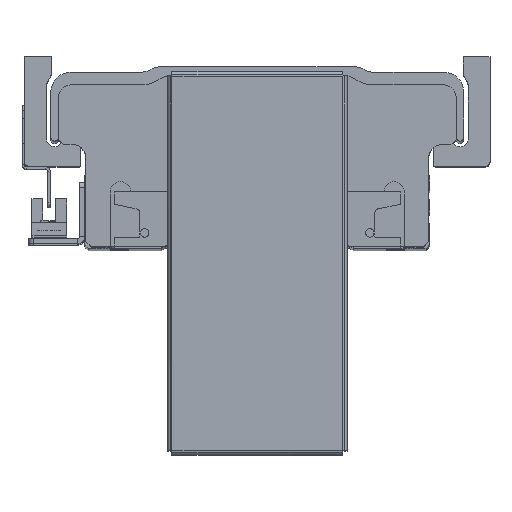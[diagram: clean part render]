
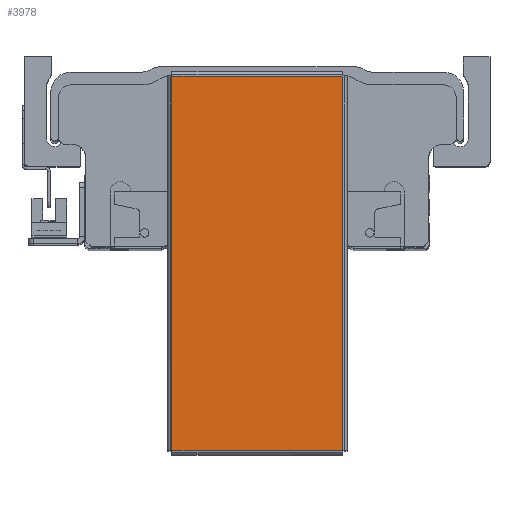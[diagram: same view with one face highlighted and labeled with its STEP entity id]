
A CAD part, top view. The second image highlights one B-rep face of the part: STEP entity #3978.
In plain terms, the highlighted planar face has unit normal (0, 0, 1) as drawn and (0, -1, 0) by its records, which use the part's own axes.
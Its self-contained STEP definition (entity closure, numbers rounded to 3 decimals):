
#1682 = EDGE_CURVE ( 'NONE', #23560, #23507, #3281, .T. ) ;
#1733 = EDGE_CURVE ( 'NONE', #23307, #23588, #3337, .T. ) ;
#1747 = EDGE_CURVE ( 'NONE', #23588, #23560, #3405, .T. ) ;
#1803 = EDGE_CURVE ( 'NONE', #23507, #23307, #3453, .T. ) ;
#3253 = VECTOR ( 'NONE', #5135, 1000. ) ;
#3281 = LINE ( 'NONE', #5115, #3253 ) ;
#3330 = VECTOR ( 'NONE', #5244, 1000. ) ;
#3337 = LINE ( 'NONE', #5227, #3330 ) ;
#3377 = VECTOR ( 'NONE', #5337, 1000. ) ;
#3405 = LINE ( 'NONE', #5310, #3377 ) ;
#3453 = LINE ( 'NONE', #5426, #3455 ) ;
#3455 = VECTOR ( 'NONE', #5430, 1000. ) ;
#3978 = ADVANCED_FACE ( 'NONE', ( #4505 ), #7049, .F. ) ;
#4505 = FACE_OUTER_BOUND ( 'NONE', #21778, .T. ) ;
#5115 = CARTESIAN_POINT ( 'NONE',  ( -73.293, -1., -33.363 ) ) ;
#5135 = DIRECTION ( 'NONE',  ( 1., 0., 0. ) ) ;
#5227 = CARTESIAN_POINT ( 'NONE',  ( 73.293, -1., 33.363 ) ) ;
#5244 = DIRECTION ( 'NONE',  ( -1., 0., 0. ) ) ;
#5310 = CARTESIAN_POINT ( 'NONE',  ( -73.263, -1., 33.393 ) ) ;
#5337 = DIRECTION ( 'NONE',  ( 0., 0., -1. ) ) ;
#5426 = CARTESIAN_POINT ( 'NONE',  ( 73.263, -1., -33.393 ) ) ;
#5430 = DIRECTION ( 'NONE',  ( 0., 0., 1. ) ) ;
#7034 = CARTESIAN_POINT ( 'NONE',  ( 0., -1., 0. ) ) ;
#7049 = PLANE ( 'NONE',  #34016 ) ;
#7071 = DIRECTION ( 'NONE',  ( 0., 1., 0. ) ) ;
#7072 = DIRECTION ( 'NONE',  ( 0., 0., 1. ) ) ;
#21778 = EDGE_LOOP ( 'NONE', ( #23809, #23618, #23709, #23749 ) ) ;
#23307 = VERTEX_POINT ( 'NONE', #34640 ) ;
#23507 = VERTEX_POINT ( 'NONE', #34795 ) ;
#23560 = VERTEX_POINT ( 'NONE', #34791 ) ;
#23588 = VERTEX_POINT ( 'NONE', #34902 ) ;
#23618 = ORIENTED_EDGE ( 'NONE', *, *, #1747, .T. ) ;
#23709 = ORIENTED_EDGE ( 'NONE', *, *, #1682, .T. ) ;
#23749 = ORIENTED_EDGE ( 'NONE', *, *, #1803, .T. ) ;
#23809 = ORIENTED_EDGE ( 'NONE', *, *, #1733, .T. ) ;
#34016 = AXIS2_PLACEMENT_3D ( 'NONE', #7034, #7071, #7072 ) ;
#34640 = CARTESIAN_POINT ( 'NONE',  ( 73.263, -1., 33.363 ) ) ;
#34791 = CARTESIAN_POINT ( 'NONE',  ( -73.263, -1., -33.363 ) ) ;
#34795 = CARTESIAN_POINT ( 'NONE',  ( 73.263, -1., -33.363 ) ) ;
#34902 = CARTESIAN_POINT ( 'NONE',  ( -73.263, -1., 33.363 ) ) ;
